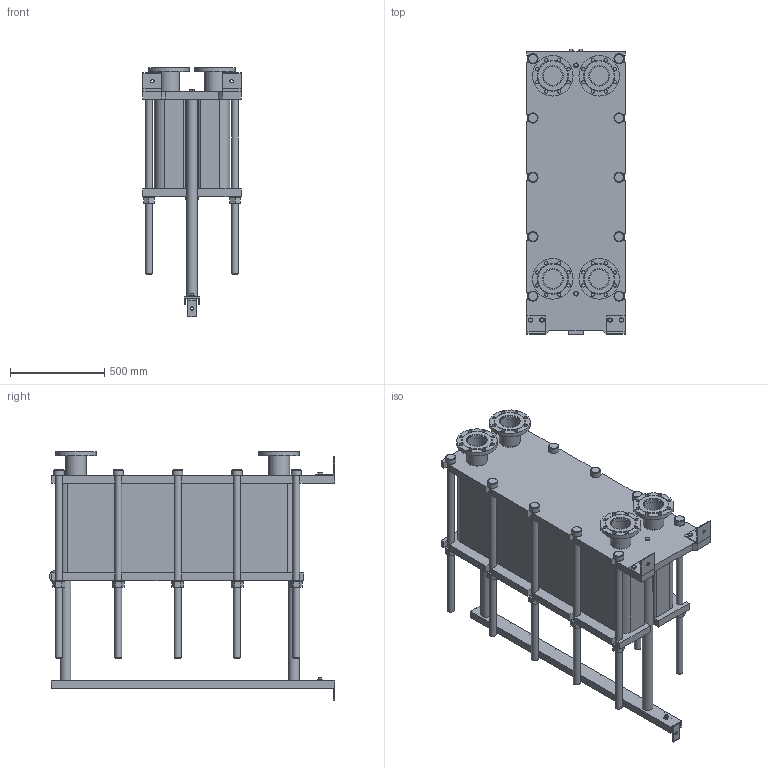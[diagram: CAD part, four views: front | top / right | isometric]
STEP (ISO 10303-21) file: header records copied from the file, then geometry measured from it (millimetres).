
FILE_DESCRIPTION(/* description */ (''),/* implementation_level */ '2;1');
FILE_NAME(/* name */ 'C:\Users\zhuro\Desktop\ENCO\TO\ЭН-04\ЭН-0,5-04-138-1.stp',/* time_stamp */ '2022-06-06T10:57:47+03:00',/* author */ ('zhuro'),/* organization */ (''),/* preprocessor_version */ 'ST-DEVELOPER v18.1',/* originating_system */ 'Autodesk Inventor 2022',/* authorisation */ '');
FILE_SCHEMA (('AUTOMOTIVE_DESIGN { 1 0 10303 214 3 1 1 }'));
Length unit declared in the file: millimetre
Products named in the file (1): ЭН-0,5-04-138-1
Bounding box: 520 x 1510 x 1324 mm (x, y, z)
Volume: 311185313.4 mm3; surface area: 9190885.5 mm2
Topology: 45 solids, 45 shells, 668 faces, 1611 edges, 1048 vertices
Faces by surface type: plane 457, cylinder 166, cone 39, torus 6
Full cylindrical faces by diameter (mm): 8 x4, 10 x2, 16 x8, 18 x35, 36 x25, 40 x2, 42 x1, 45 x4, 54 x10, 57 x2, 60 x10, 68 x2, 100 x4, 110 x8, 215 x4
Entity records: 23607 total; most frequent: CARTESIAN_POINT 7348, DIRECTION 3371, ORIENTED_EDGE 3142, EDGE_CURVE 1571, AXIS2_PLACEMENT_3D 1199, VERTEX_POINT 1044, LINE 973, VECTOR 973
